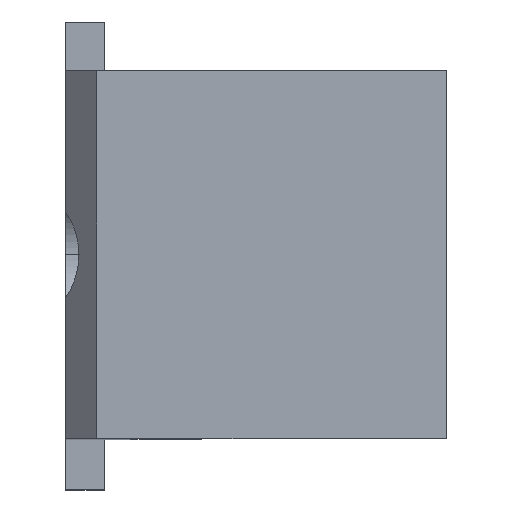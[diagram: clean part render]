
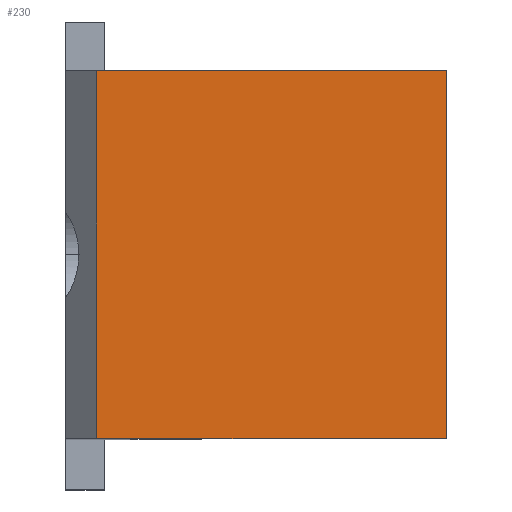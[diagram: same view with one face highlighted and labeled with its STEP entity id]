
A CAD part, top view. The second image highlights one B-rep face of the part: STEP entity #230.
In plain terms, the highlighted planar face has unit normal (0, 0, 1).
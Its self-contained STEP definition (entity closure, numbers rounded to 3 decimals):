
#130 = EDGE_CURVE( '', #188, #220, #342, .T. );
#152 = VERTEX_POINT( '', #364 );
#168 = EDGE_CURVE( '', #188, #224, #382, .T. );
#188 = VERTEX_POINT( '', #404 );
#206 = EDGE_CURVE( '', #152, #224, #425, .T. );
#220 = VERTEX_POINT( '', #439 );
#224 = VERTEX_POINT( '', #443 );
#230 = ADVANCED_FACE( '', ( #450 ), #451, .T. );
#254 = EDGE_CURVE( '', #220, #152, #476, .T. );
#342 = LINE( '', #569, #570 );
#364 = CARTESIAN_POINT( '', ( 1., -5.9, 2.765 ) );
#382 = LINE( '', #632, #633 );
#404 = CARTESIAN_POINT( '', ( 12.218, 5.9, 2.765 ) );
#425 = LINE( '', #695, #696 );
#439 = CARTESIAN_POINT( '', ( 1., 5.9, 2.765 ) );
#443 = CARTESIAN_POINT( '', ( 12.218, -5.9, 2.765 ) );
#450 = FACE_OUTER_BOUND( '', #728, .T. );
#451 = PLANE( '', #729 );
#476 = LINE( '', #758, #759 );
#569 = CARTESIAN_POINT( '', ( -2., 5.9, 2.765 ) );
#570 = VECTOR( '', #860, 1. );
#632 = CARTESIAN_POINT( '', ( 12.218, 7.5, 2.765 ) );
#633 = VECTOR( '', #898, 1. );
#695 = CARTESIAN_POINT( '', ( -2., -5.9, 2.765 ) );
#696 = VECTOR( '', #951, 1. );
#728 = EDGE_LOOP( '', ( #968, #969, #970, #971 ) );
#729 = AXIS2_PLACEMENT_3D( '', #972, #973, #974 );
#758 = CARTESIAN_POINT( '', ( 1., 7.5, 2.765 ) );
#759 = VECTOR( '', #987, 1. );
#860 = DIRECTION( '', ( -1., 0., 0. ) );
#898 = DIRECTION( '', ( 0., -1., 0. ) );
#951 = DIRECTION( '', ( 1., 0., 0. ) );
#968 = ORIENTED_EDGE( '', *, *, #130, .T. );
#969 = ORIENTED_EDGE( '', *, *, #254, .T. );
#970 = ORIENTED_EDGE( '', *, *, #206, .T. );
#971 = ORIENTED_EDGE( '', *, *, #168, .F. );
#972 = CARTESIAN_POINT( '', ( 1., 7.5, 2.765 ) );
#973 = DIRECTION( '', ( 0., 0., 1. ) );
#974 = DIRECTION( '', ( -1., 0., 0. ) );
#987 = DIRECTION( '', ( 0., -1., 0. ) );
